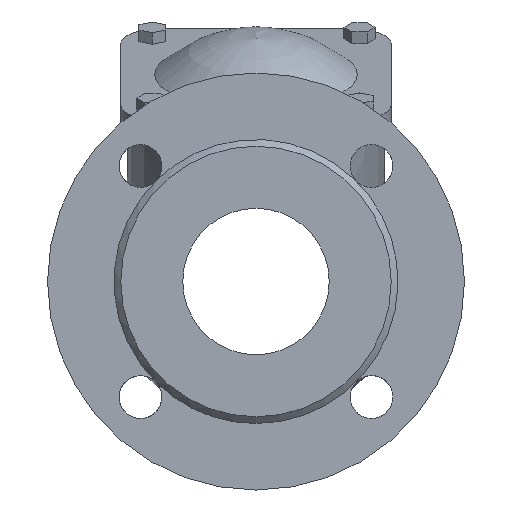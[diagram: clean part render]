
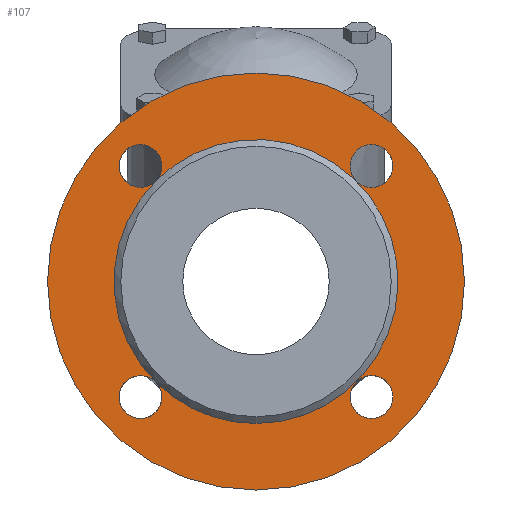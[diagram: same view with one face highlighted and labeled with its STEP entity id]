
A CAD part, left-side view. The second image highlights one B-rep face of the part: STEP entity #107.
In plain terms, the highlighted planar face has unit normal (-1, 0, 0).
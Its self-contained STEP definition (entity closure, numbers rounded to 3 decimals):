
#107=ADVANCED_FACE('',(#1357,#1359,#1361,#1363,#1365,#1367),#1369,.T.);
#1357=FACE_BOUND('',#1358,.T.);
#1358=EDGE_LOOP('',(#6421));
#1359=FACE_BOUND('',#1360,.T.);
#1360=EDGE_LOOP('',(#6422,#6423));
#1361=FACE_BOUND('',#1362,.T.);
#1362=EDGE_LOOP('',(#6424));
#1363=FACE_BOUND('',#1364,.T.);
#1364=EDGE_LOOP('',(#6425,#6426,#6427));
#1365=FACE_BOUND('',#1366,.T.);
#1366=EDGE_LOOP('',(#6428));
#1367=FACE_BOUND('',#1368,.T.);
#1368=EDGE_LOOP('',(#6429,#6430));
#1369=PLANE('',#1370);
#1370=AXIS2_PLACEMENT_3D('',#1371,#1372,#1373);
#1371=CARTESIAN_POINT('',(-108.019,0.,0.));
#1372=DIRECTION('',(-1.,0.,0.));
#1373=DIRECTION('',(0.,0.,-1.));
#6421=ORIENTED_EDGE('',*,*,#7084,.F.);
#6422=ORIENTED_EDGE('',*,*,#7085,.T.);
#6423=ORIENTED_EDGE('',*,*,#7086,.T.);
#6424=ORIENTED_EDGE('',*,*,#7087,.T.);
#6425=ORIENTED_EDGE('',*,*,#7075,.T.);
#6426=ORIENTED_EDGE('',*,*,#7074,.T.);
#6427=ORIENTED_EDGE('',*,*,#7076,.T.);
#6428=ORIENTED_EDGE('',*,*,#7088,.T.);
#6429=ORIENTED_EDGE('',*,*,#7089,.T.);
#6430=ORIENTED_EDGE('',*,*,#7090,.T.);
#7074=EDGE_CURVE('',#7419,#7420,#7421,.T.);
#7075=EDGE_CURVE('',#7422,#7419,#7423,.T.);
#7076=EDGE_CURVE('',#7420,#7422,#7424,.T.);
#7084=EDGE_CURVE('',#7437,#7437,#7438,.T.);
#7085=EDGE_CURVE('',#7420,#7439,#7440,.F.);
#7086=EDGE_CURVE('',#7439,#7420,#7441,.F.);
#7087=EDGE_CURVE('',#7442,#7442,#7443,.F.);
#7088=EDGE_CURVE('',#7444,#7444,#7445,.F.);
#7089=EDGE_CURVE('',#7419,#7446,#7447,.F.);
#7090=EDGE_CURVE('',#7446,#7419,#7448,.F.);
#7419=VERTEX_POINT('',#8004);
#7420=VERTEX_POINT('',#8005);
#7421=CIRCLE('',#8006,63.);
#7422=VERTEX_POINT('',#8010);
#7423=CIRCLE('',#8011,63.);
#7424=CIRCLE('',#8015,63.);
#7437=VERTEX_POINT('',#8052);
#7438=CIRCLE('',#8053,92.5);
#7439=VERTEX_POINT('',#8057);
#7440=CIRCLE('',#8058,9.5);
#7441=CIRCLE('',#8062,9.5);
#7442=VERTEX_POINT('',#8066);
#7443=CIRCLE('',#8067,9.5);
#7444=VERTEX_POINT('',#8071);
#7445=CIRCLE('',#8072,9.5);
#7446=VERTEX_POINT('',#8076);
#7447=CIRCLE('',#8077,9.5);
#7448=CIRCLE('',#8081,9.5);
#8004=CARTESIAN_POINT('',(-108.019,44.548,-44.548));
#8005=CARTESIAN_POINT('',(-108.019,44.548,44.548));
#8006=AXIS2_PLACEMENT_3D('',#8007,#8008,#8009);
#8007=CARTESIAN_POINT('',(-108.019,0.,0.));
#8008=DIRECTION('',(1.,0.,0.));
#8009=DIRECTION('',(0.,0.707,-0.707));
#8010=CARTESIAN_POINT('',(-108.019,0.,-63.));
#8011=AXIS2_PLACEMENT_3D('',#8012,#8013,#8014);
#8012=CARTESIAN_POINT('',(-108.019,0.,0.));
#8013=DIRECTION('',(1.,0.,0.));
#8014=DIRECTION('',(0.,0.,-1.));
#8015=AXIS2_PLACEMENT_3D('',#8016,#8017,#8018);
#8016=CARTESIAN_POINT('',(-108.019,0.,0.));
#8017=DIRECTION('',(1.,0.,0.));
#8018=DIRECTION('',(0.,0.707,0.707));
#8052=CARTESIAN_POINT('',(-108.019,0.,-92.5));
#8053=AXIS2_PLACEMENT_3D('',#8054,#8055,#8056);
#8054=CARTESIAN_POINT('',(-108.019,0.,0.));
#8055=DIRECTION('',(1.,0.,0.));
#8056=DIRECTION('',(0.,0.,-1.));
#8057=CARTESIAN_POINT('',(-108.019,51.265,60.765));
#8058=AXIS2_PLACEMENT_3D('',#8059,#8060,#8061);
#8059=CARTESIAN_POINT('',(-108.019,51.265,51.265));
#8060=DIRECTION('',(-1.,0.,0.));
#8061=DIRECTION('',(0.,0.,1.));
#8062=AXIS2_PLACEMENT_3D('',#8063,#8064,#8065);
#8063=CARTESIAN_POINT('',(-108.019,51.265,51.265));
#8064=DIRECTION('',(-1.,0.,0.));
#8065=DIRECTION('',(0.,-0.707,-0.707));
#8066=CARTESIAN_POINT('',(-108.019,-60.765,51.265));
#8067=AXIS2_PLACEMENT_3D('',#8068,#8069,#8070);
#8068=CARTESIAN_POINT('',(-108.019,-51.265,51.265));
#8069=DIRECTION('',(-1.,0.,0.));
#8070=DIRECTION('',(0.,-1.,0.));
#8071=CARTESIAN_POINT('',(-108.019,-51.265,-60.765));
#8072=AXIS2_PLACEMENT_3D('',#8073,#8074,#8075);
#8073=CARTESIAN_POINT('',(-108.019,-51.265,-51.265));
#8074=DIRECTION('',(-1.,0.,0.));
#8075=DIRECTION('',(0.,0.,-1.));
#8076=CARTESIAN_POINT('',(-108.019,60.765,-51.265));
#8077=AXIS2_PLACEMENT_3D('',#8078,#8079,#8080);
#8078=CARTESIAN_POINT('',(-108.019,51.265,-51.265));
#8079=DIRECTION('',(-1.,0.,0.));
#8080=DIRECTION('',(0.,1.,0.));
#8081=AXIS2_PLACEMENT_3D('',#8082,#8083,#8084);
#8082=CARTESIAN_POINT('',(-108.019,51.265,-51.265));
#8083=DIRECTION('',(-1.,0.,0.));
#8084=DIRECTION('',(0.,-0.707,0.707));
